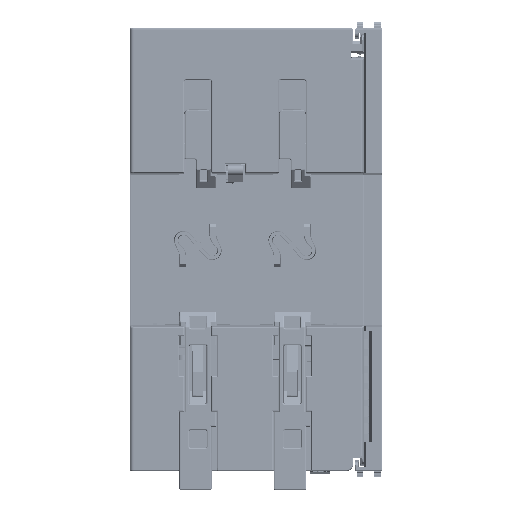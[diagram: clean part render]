
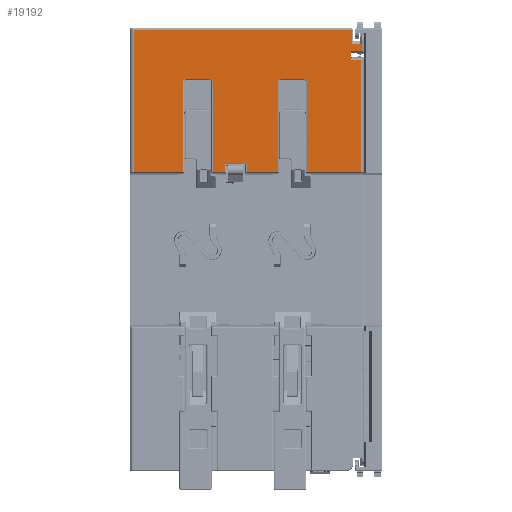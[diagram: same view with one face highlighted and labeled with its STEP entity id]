
A CAD part, front view. The second image highlights one B-rep face of the part: STEP entity #19192.
In plain terms, the highlighted planar face has unit normal (0, -1, 0).
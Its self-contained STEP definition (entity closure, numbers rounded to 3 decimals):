
#2932=DIRECTION('',(0.009,0.,-1.));
#2933=VECTOR('',#2932,3.4);
#2934=CARTESIAN_POINT('',(52.675,0.,52.2));
#2935=LINE('',#2934,#2933);
#2936=DIRECTION('',(0.009,0.,1.));
#2937=VECTOR('',#2936,0.198);
#2938=CARTESIAN_POINT('',(55.046,0.,48.8));
#2939=LINE('',#2938,#2937);
#2940=DIRECTION('',(-1.,0.,0.));
#2941=VECTOR('',#2940,0.153);
#2942=CARTESIAN_POINT('',(55.2,0.,48.998));
#2943=LINE('',#2942,#2941);
#2944=DIRECTION('',(0.,0.,-1.));
#2945=VECTOR('',#2944,1.775);
#2946=CARTESIAN_POINT('',(55.2,0.,48.998));
#2947=LINE('',#2946,#2945);
#2948=DIRECTION('',(1.,0.,0.009));
#2949=VECTOR('',#2948,2.6);
#2950=CARTESIAN_POINT('',(52.6,0.,47.2));
#2951=LINE('',#2950,#2949);
#2952=DIRECTION('',(1.,0.,-0.009));
#2953=VECTOR('',#2952,2.415);
#2954=CARTESIAN_POINT('',(52.6,0.,45.));
#2955=LINE('',#2954,#2953);
#2956=DIRECTION('',(0.,0.,-1.));
#2957=VECTOR('',#2956,26.458);
#2958=CARTESIAN_POINT('',(55.015,0.,44.979));
#2959=LINE('',#2958,#2957);
#2960=DIRECTION('',(0.,0.,1.));
#2961=VECTOR('',#2960,21.229);
#2962=CARTESIAN_POINT('',(42.1,0.,18.521));
#2963=LINE('',#2962,#2961);
#2964=CARTESIAN_POINT('',(41.3,0.,39.75));
#2965=DIRECTION('',(0.,-1.,0.));
#2966=DIRECTION('',(1.,0.,0.));
#2967=AXIS2_PLACEMENT_3D('',#2964,#2965,#2966);
#2969=DIRECTION('',(-1.,0.,0.));
#2970=VECTOR('',#2969,5.4);
#2971=CARTESIAN_POINT('',(41.3,0.,40.55));
#2972=LINE('',#2971,#2970);
#2973=CARTESIAN_POINT('',(35.9,0.,39.75));
#2974=DIRECTION('',(0.,-1.,0.));
#2975=DIRECTION('',(0.,0.,1.));
#2976=AXIS2_PLACEMENT_3D('',#2973,#2974,#2975);
#2978=DIRECTION('',(0.,0.,-1.));
#2979=VECTOR('',#2978,21.229);
#2980=CARTESIAN_POINT('',(35.1,0.,39.75));
#2981=LINE('',#2980,#2979);
#2982=DIRECTION('',(1.,0.,0.));
#2983=VECTOR('',#2982,7.317);
#2984=CARTESIAN_POINT('',(27.783,0.,18.521));
#2985=LINE('',#2984,#2983);
#2986=DIRECTION('',(0.,0.,-1.));
#2987=VECTOR('',#2986,2.062);
#2988=CARTESIAN_POINT('',(27.783,0.,20.583));
#2989=LINE('',#2988,#2987);
#2990=DIRECTION('',(1.,0.,0.));
#2991=VECTOR('',#2990,5.167);
#2992=CARTESIAN_POINT('',(22.617,0.,20.583));
#2993=LINE('',#2992,#2991);
#2994=DIRECTION('',(0.,0.,1.));
#2995=VECTOR('',#2994,2.062);
#2996=CARTESIAN_POINT('',(22.617,0.,18.521));
#2997=LINE('',#2996,#2995);
#2998=DIRECTION('',(1.,0.,0.));
#2999=VECTOR('',#2998,2.917);
#3000=CARTESIAN_POINT('',(19.7,0.,18.521));
#3001=LINE('',#3000,#2999);
#3002=DIRECTION('',(0.,0.,1.));
#3003=VECTOR('',#3002,21.229);
#3004=CARTESIAN_POINT('',(19.7,0.,18.521));
#3005=LINE('',#3004,#3003);
#3006=CARTESIAN_POINT('',(18.9,0.,39.75));
#3007=DIRECTION('',(0.,-1.,0.));
#3008=DIRECTION('',(1.,0.,0.));
#3009=AXIS2_PLACEMENT_3D('',#3006,#3007,#3008);
#3011=DIRECTION('',(-1.,0.,0.));
#3012=VECTOR('',#3011,5.4);
#3013=CARTESIAN_POINT('',(18.9,0.,40.55));
#3014=LINE('',#3013,#3012);
#3015=CARTESIAN_POINT('',(13.5,0.,39.75));
#3016=DIRECTION('',(0.,-1.,0.));
#3017=DIRECTION('',(0.,0.,1.));
#3018=AXIS2_PLACEMENT_3D('',#3015,#3016,#3017);
#3020=DIRECTION('',(0.,0.,-1.));
#3021=VECTOR('',#3020,21.229);
#3022=CARTESIAN_POINT('',(12.7,0.,39.75));
#3023=LINE('',#3022,#3021);
#3024=DIRECTION('',(-1.,0.,0.));
#3025=VECTOR('',#3024,11.7);
#3026=CARTESIAN_POINT('',(12.7,0.,18.521));
#3027=LINE('',#3026,#3025);
#3028=DIRECTION('',(0.,0.,1.));
#3029=VECTOR('',#3028,33.679);
#3030=CARTESIAN_POINT('',(1.,0.,18.521));
#3031=LINE('',#3030,#3029);
#3032=DIRECTION('',(-1.,0.,0.));
#3033=VECTOR('',#3032,51.675);
#3034=CARTESIAN_POINT('',(52.675,0.,52.2));
#3035=LINE('',#3034,#3033);
#3697=DIRECTION('',(1.,0.,0.));
#3698=VECTOR('',#3697,12.915);
#3699=CARTESIAN_POINT('',(42.1,0.,18.521));
#3700=LINE('',#3699,#3698);
#3720=CARTESIAN_POINT('',(55.015,0.,44.979));
#3735=DIRECTION('',(0.,0.,1.));
#3736=VECTOR('',#3735,2.2);
#3737=CARTESIAN_POINT('',(52.6,0.,45.));
#3738=LINE('',#3737,#3736);
#11275=DIRECTION('',(-1.,0.,0.));
#11276=VECTOR('',#11275,2.341);
#11277=CARTESIAN_POINT('',(55.046,0.,48.8));
#11278=LINE('',#11277,#11276);
#11354=CARTESIAN_POINT('',(55.047,0.,48.998));
#11378=CARTESIAN_POINT('',(55.2,0.,48.998));
#13372=CARTESIAN_POINT('',(55.2,0.,47.223));
#13374=VERTEX_POINT('',#13372);
#13378=CARTESIAN_POINT('',(52.6,0.,47.2));
#13379=VERTEX_POINT('',#13378);
#13396=CARTESIAN_POINT('',(52.6,0.,45.));
#13397=VERTEX_POINT('',#13396);
#14112=VERTEX_POINT('',#3720);
#14192=VERTEX_POINT('',#11378);
#14701=CARTESIAN_POINT('',(55.046,0.,48.8));
#14702=VERTEX_POINT('',#14701);
#14707=VERTEX_POINT('',#11354);
#15654=CARTESIAN_POINT('',(55.015,0.,18.521));
#15656=VERTEX_POINT('',#15654);
#16027=CARTESIAN_POINT('',(12.7,0.,18.521));
#16028=VERTEX_POINT('',#16027);
#16031=CARTESIAN_POINT('',(12.7,0.,39.75));
#16032=VERTEX_POINT('',#16031);
#16035=CARTESIAN_POINT('',(13.5,0.,40.55));
#16036=VERTEX_POINT('',#16035);
#16039=CARTESIAN_POINT('',(18.9,0.,40.55));
#16040=VERTEX_POINT('',#16039);
#16043=CARTESIAN_POINT('',(19.7,0.,39.75));
#16044=VERTEX_POINT('',#16043);
#16047=CARTESIAN_POINT('',(19.7,0.,18.521));
#16048=VERTEX_POINT('',#16047);
#16059=CARTESIAN_POINT('',(35.1,0.,18.521));
#16060=VERTEX_POINT('',#16059);
#16063=CARTESIAN_POINT('',(35.1,0.,39.75));
#16064=VERTEX_POINT('',#16063);
#16067=CARTESIAN_POINT('',(35.9,0.,40.55));
#16068=VERTEX_POINT('',#16067);
#16071=CARTESIAN_POINT('',(41.3,0.,40.55));
#16072=VERTEX_POINT('',#16071);
#16075=CARTESIAN_POINT('',(42.1,0.,39.75));
#16076=VERTEX_POINT('',#16075);
#16079=CARTESIAN_POINT('',(42.1,0.,18.521));
#16080=VERTEX_POINT('',#16079);
#16085=CARTESIAN_POINT('',(27.783,0.,20.583));
#16086=CARTESIAN_POINT('',(27.783,0.,18.521));
#16087=VERTEX_POINT('',#16085);
#16088=VERTEX_POINT('',#16086);
#16093=CARTESIAN_POINT('',(22.617,0.,20.583));
#16094=VERTEX_POINT('',#16093);
#16095=CARTESIAN_POINT('',(22.617,0.,18.521));
#16096=VERTEX_POINT('',#16095);
#16352=CARTESIAN_POINT('',(1.,0.,18.521));
#16354=VERTEX_POINT('',#16352);
#16374=CARTESIAN_POINT('',(52.675,0.,52.2));
#16375=CARTESIAN_POINT('',(52.704,0.,48.8));
#16376=VERTEX_POINT('',#16374);
#16377=VERTEX_POINT('',#16375);
#16388=CARTESIAN_POINT('',(1.,0.,52.2));
#16389=VERTEX_POINT('',#16388);
#19130=CARTESIAN_POINT('',(0.,0.,0.));
#19131=DIRECTION('',(0.,1.,0.));
#19132=DIRECTION('',(1.,0.,0.));
#19133=AXIS2_PLACEMENT_3D('',#19130,#19131,#19132);
#19134=PLANE('',#19133);
#19136=ORIENTED_EDGE('',*,*,#19135,.T.);
#19138=ORIENTED_EDGE('',*,*,#19137,.F.);
#19140=ORIENTED_EDGE('',*,*,#19139,.T.);
#19142=ORIENTED_EDGE('',*,*,#19141,.F.);
#19144=ORIENTED_EDGE('',*,*,#19143,.T.);
#19146=ORIENTED_EDGE('',*,*,#19145,.F.);
#19148=ORIENTED_EDGE('',*,*,#19147,.F.);
#19150=ORIENTED_EDGE('',*,*,#19149,.T.);
#19152=ORIENTED_EDGE('',*,*,#19151,.T.);
#19154=ORIENTED_EDGE('',*,*,#19153,.F.);
#19156=ORIENTED_EDGE('',*,*,#19155,.T.);
#19158=ORIENTED_EDGE('',*,*,#19157,.T.);
#19160=ORIENTED_EDGE('',*,*,#19159,.T.);
#19162=ORIENTED_EDGE('',*,*,#19161,.T.);
#19164=ORIENTED_EDGE('',*,*,#19163,.T.);
#19166=ORIENTED_EDGE('',*,*,#19165,.F.);
#19167=ORIENTED_EDGE('',*,*,#19041,.F.);
#19169=ORIENTED_EDGE('',*,*,#19168,.F.);
#19171=ORIENTED_EDGE('',*,*,#19170,.F.);
#19173=ORIENTED_EDGE('',*,*,#19172,.F.);
#19175=ORIENTED_EDGE('',*,*,#19174,.T.);
#19177=ORIENTED_EDGE('',*,*,#19176,.T.);
#19179=ORIENTED_EDGE('',*,*,#19178,.T.);
#19181=ORIENTED_EDGE('',*,*,#19180,.T.);
#19183=ORIENTED_EDGE('',*,*,#19182,.T.);
#19185=ORIENTED_EDGE('',*,*,#19184,.T.);
#19187=ORIENTED_EDGE('',*,*,#19186,.T.);
#19189=ORIENTED_EDGE('',*,*,#19188,.F.);
#19190=EDGE_LOOP('',(#19136,#19138,#19140,#19142,#19144,#19146,#19148,#19150,
#19152,#19154,#19156,#19158,#19160,#19162,#19164,#19166,#19167,#19169,#19171,
#19173,#19175,#19177,#19179,#19181,#19183,#19185,#19187,#19189));
#19191=FACE_OUTER_BOUND('',#19190,.F.);
#19192=ADVANCED_FACE('',(#19191),#19134,.F.);
#2968=CIRCLE('',#2967,0.8);
#2977=CIRCLE('',#2976,0.8);
#3010=CIRCLE('',#3009,0.8);
#3019=CIRCLE('',#3018,0.8);
#19041=EDGE_CURVE('',#16087,#16088,#2989,.T.);
#19135=EDGE_CURVE('',#16376,#16377,#2935,.T.);
#19137=EDGE_CURVE('',#14702,#16377,#11278,.T.);
#19139=EDGE_CURVE('',#14702,#14707,#2939,.T.);
#19141=EDGE_CURVE('',#14192,#14707,#2943,.T.);
#19143=EDGE_CURVE('',#14192,#13374,#2947,.T.);
#19145=EDGE_CURVE('',#13379,#13374,#2951,.T.);
#19147=EDGE_CURVE('',#13397,#13379,#3738,.T.);
#19149=EDGE_CURVE('',#13397,#14112,#2955,.T.);
#19151=EDGE_CURVE('',#14112,#15656,#2959,.T.);
#19153=EDGE_CURVE('',#16080,#15656,#3700,.T.);
#19155=EDGE_CURVE('',#16080,#16076,#2963,.T.);
#19157=EDGE_CURVE('',#16076,#16072,#2968,.T.);
#19159=EDGE_CURVE('',#16072,#16068,#2972,.T.);
#19161=EDGE_CURVE('',#16068,#16064,#2977,.T.);
#19163=EDGE_CURVE('',#16064,#16060,#2981,.T.);
#19165=EDGE_CURVE('',#16088,#16060,#2985,.T.);
#19168=EDGE_CURVE('',#16094,#16087,#2993,.T.);
#19170=EDGE_CURVE('',#16096,#16094,#2997,.T.);
#19172=EDGE_CURVE('',#16048,#16096,#3001,.T.);
#19174=EDGE_CURVE('',#16048,#16044,#3005,.T.);
#19176=EDGE_CURVE('',#16044,#16040,#3010,.T.);
#19178=EDGE_CURVE('',#16040,#16036,#3014,.T.);
#19180=EDGE_CURVE('',#16036,#16032,#3019,.T.);
#19182=EDGE_CURVE('',#16032,#16028,#3023,.T.);
#19184=EDGE_CURVE('',#16028,#16354,#3027,.T.);
#19186=EDGE_CURVE('',#16354,#16389,#3031,.T.);
#19188=EDGE_CURVE('',#16376,#16389,#3035,.T.);
